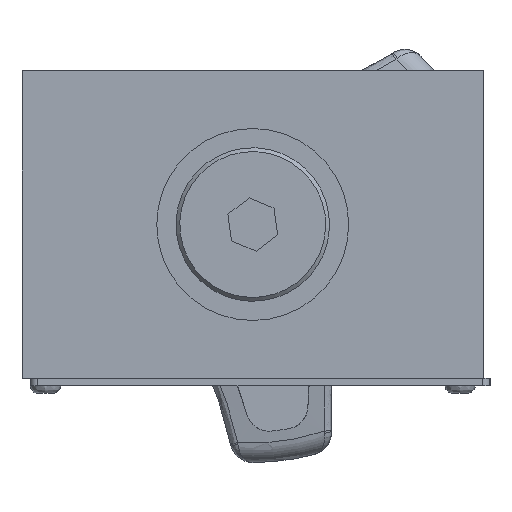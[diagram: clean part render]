
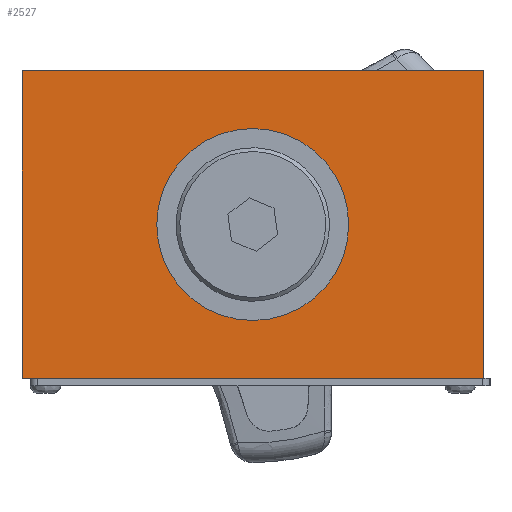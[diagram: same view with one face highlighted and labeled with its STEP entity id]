
A CAD part, left-side view. The second image highlights one B-rep face of the part: STEP entity #2527.
In plain terms, the highlighted planar face has unit normal (-1, 0, 0).
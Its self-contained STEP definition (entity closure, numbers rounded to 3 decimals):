
#131=LINE('',#14149,#508);
#139=LINE('',#14299,#516);
#140=LINE('',#14590,#517);
#141=LINE('',#14591,#518);
#508=VECTOR('',#10909,1.);
#516=VECTOR('',#10943,1.);
#517=VECTOR('',#10966,1.);
#518=VECTOR('',#10967,1.);
#2155=PLANE('',#9718);
#2527=ADVANCED_FACE('',(#3410,#3411),#2155,.T.);
#3410=FACE_BOUND('',#3910,.T.);
#3411=FACE_BOUND('',#3911,.T.);
#3910=EDGE_LOOP('',(#4843));
#3911=EDGE_LOOP('',(#4844,#4845,#4846,#4847));
#4843=ORIENTED_EDGE('',*,*,#8009,.F.);
#4844=ORIENTED_EDGE('',*,*,#8010,.F.);
#4845=ORIENTED_EDGE('',*,*,#7998,.F.);
#4846=ORIENTED_EDGE('',*,*,#8011,.T.);
#4847=ORIENTED_EDGE('',*,*,#7971,.T.);
#7120=VERTEX_POINT('',#14147);
#7122=VERTEX_POINT('',#14150);
#7145=VERTEX_POINT('',#14296);
#7146=VERTEX_POINT('',#14298);
#7157=VERTEX_POINT('',#14589);
#7971=EDGE_CURVE('',#7122,#7120,#131,.T.);
#7998=EDGE_CURVE('',#7146,#7145,#139,.T.);
#8009=EDGE_CURVE('',#7157,#7157,#9183,.T.);
#8010=EDGE_CURVE('',#7145,#7120,#140,.T.);
#8011=EDGE_CURVE('',#7146,#7122,#141,.T.);
#9183=CIRCLE('',#9717,12.5);
#9717=AXIS2_PLACEMENT_3D('',#14588,#10964,#10965);
#9718=AXIS2_PLACEMENT_3D('',#14592,#10968,#10969);
#10909=DIRECTION('',(0.,0.,-1.));
#10943=DIRECTION('',(0.,0.,-1.));
#10964=DIRECTION('',(-1.,0.,0.));
#10965=DIRECTION('',(0.,0.,1.));
#10966=DIRECTION('',(0.,1.,0.));
#10967=DIRECTION('',(0.,1.,0.));
#10968=DIRECTION('',(-1.,0.,0.));
#10969=DIRECTION('',(0.,0.,-1.));
#14147=CARTESIAN_POINT('',(128.298,189.944,-20.));
#14149=CARTESIAN_POINT('',(128.298,189.944,20.));
#14150=CARTESIAN_POINT('',(128.298,189.944,20.));
#14296=CARTESIAN_POINT('',(128.298,129.944,-20.));
#14298=CARTESIAN_POINT('',(128.298,129.944,20.));
#14299=CARTESIAN_POINT('',(128.298,129.944,20.));
#14588=CARTESIAN_POINT('',(128.298,159.944,0.));
#14589=CARTESIAN_POINT('',(128.298,159.944,12.5));
#14590=CARTESIAN_POINT('',(128.298,129.944,-20.));
#14591=CARTESIAN_POINT('',(128.298,129.944,20.));
#14592=CARTESIAN_POINT('',(128.298,129.944,20.));
